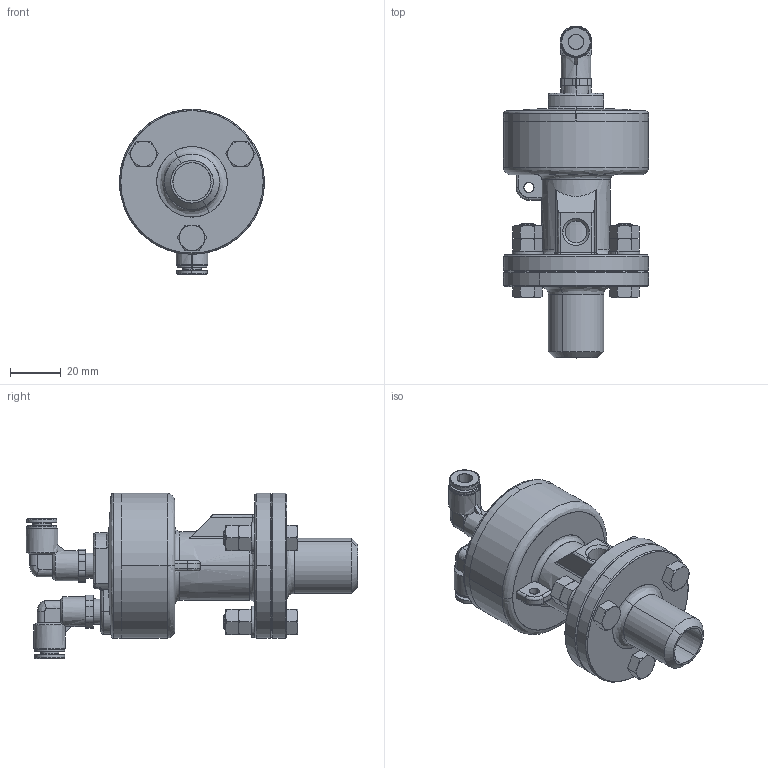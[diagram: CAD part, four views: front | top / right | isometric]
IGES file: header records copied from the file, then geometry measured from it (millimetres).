
Start section: SolidWorks IGES file using analytic representation for surfaces
Global section: file name: V:\WORK\08133\HP 寸法図\knocker\RKV20P\test_D48000H-000 RKV20P_defeature.IGS,15; native system: HSolidWorks 2018; preprocessor: SolidWorks 2018; author: n-udagawa; date: 230113.171920; units: millimetre
Bounding box: 57 x 130.45 x 65 mm (x, y, z)
Surface area: 27826.5 mm2 (no closed solid volume)
Topology: 0 solids, 0 shells, 417 faces, 6332 edges, 7300 vertices
Faces by surface type: bspline 218, revolution 199
